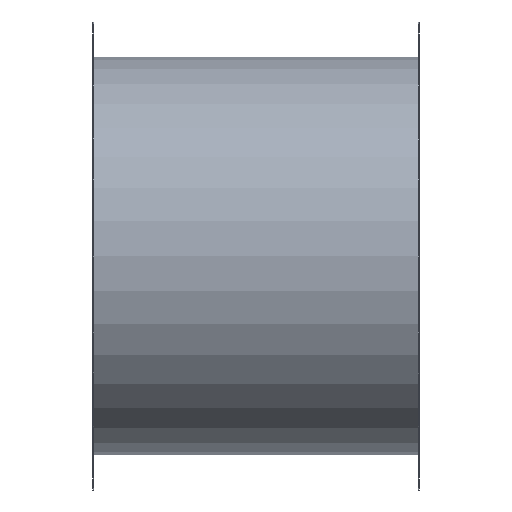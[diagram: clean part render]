
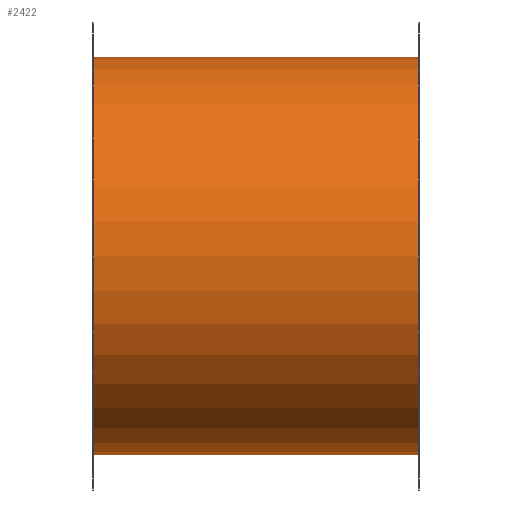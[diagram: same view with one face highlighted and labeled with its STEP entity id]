
A CAD part, left-side view. The second image highlights one B-rep face of the part: STEP entity #2422.
In plain terms, the highlighted cylindrical face has radius 201 mm (diameter 402 mm), a full revolution.
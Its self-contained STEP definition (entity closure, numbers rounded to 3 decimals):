
#201=CIRCLE('',#2636,201.);
#202=CIRCLE('',#2637,201.);
#713=FACE_BOUND('',#1002,.T.);
#860=FACE_OUTER_BOUND('',#1001,.T.);
#1001=EDGE_LOOP('',(#2249));
#1002=EDGE_LOOP('',(#2250));
#1273=VERTEX_POINT('',#4064);
#1274=VERTEX_POINT('',#4066);
#1609=EDGE_CURVE('',#1273,#1273,#201,.F.);
#1610=EDGE_CURVE('',#1274,#1274,#202,.T.);
#2249=ORIENTED_EDGE('',*,*,#1609,.T.);
#2250=ORIENTED_EDGE('',*,*,#1610,.T.);
#2303=CYLINDRICAL_SURFACE('',#2635,201.);
#2422=ADVANCED_FACE('',(#860,#713),#2303,.T.);
#2635=AXIS2_PLACEMENT_3D('',#4063,#3290,#3291);
#2636=AXIS2_PLACEMENT_3D('',#4065,#3292,#3293);
#2637=AXIS2_PLACEMENT_3D('',#4067,#3294,#3295);
#3290=DIRECTION('center_axis',(0.,1.,0.));
#3291=DIRECTION('ref_axis',(1.,0.,0.));
#3292=DIRECTION('center_axis',(0.,-1.,0.));
#3293=DIRECTION('ref_axis',(1.,0.,0.));
#3294=DIRECTION('center_axis',(0.,-1.,0.));
#3295=DIRECTION('ref_axis',(1.,0.,0.));
#4063=CARTESIAN_POINT('Origin',(0.,0.,0.));
#4064=CARTESIAN_POINT('',(-201.,-164.,0.));
#4065=CARTESIAN_POINT('Origin',(0.,-164.,0.));
#4066=CARTESIAN_POINT('',(-201.,164.,0.));
#4067=CARTESIAN_POINT('Origin',(0.,164.,0.));
